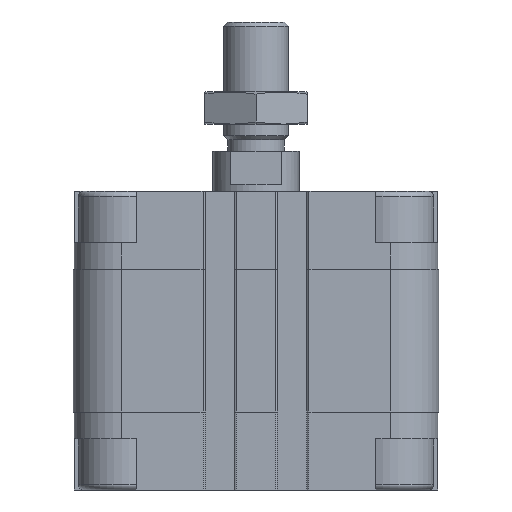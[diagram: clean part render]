
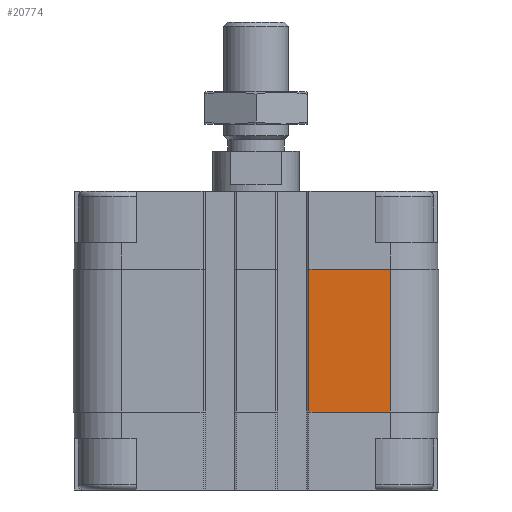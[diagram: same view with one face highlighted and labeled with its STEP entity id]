
A CAD part, front view. The second image highlights one B-rep face of the part: STEP entity #20774.
In plain terms, the highlighted planar face has unit normal (0, -1, 0).
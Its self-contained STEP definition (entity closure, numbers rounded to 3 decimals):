
#240 = AXIS2_PLACEMENT_3D ( 'NONE', #20685, #4736, #6808 ) ;
#315 = CARTESIAN_POINT ( 'NONE',  ( 25., -34., -41. ) ) ;
#423 = CARTESIAN_POINT ( 'NONE',  ( 9.85, -34., -41. ) ) ;
#528 = EDGE_LOOP ( 'NONE', ( #18208, #7025, #7078, #3927 ) ) ;
#1122 = EDGE_CURVE ( 'NONE', #9883, #9581, #16372, .T. ) ;
#2175 = LINE ( 'NONE', #315, #12063 ) ;
#2913 = CARTESIAN_POINT ( 'NONE',  ( 25., -34., -14.5 ) ) ;
#2961 = EDGE_CURVE ( 'NONE', #9581, #4103, #2175, .T. ) ;
#3212 = FACE_OUTER_BOUND ( 'NONE', #528, .T. ) ;
#3300 = DIRECTION ( 'NONE',  ( 1., 0., 0. ) ) ;
#3768 = VECTOR ( 'NONE', #3300, 1000. ) ;
#3927 = ORIENTED_EDGE ( 'NONE', *, *, #2961, .T. ) ;
#4103 = VERTEX_POINT ( 'NONE', #2913 ) ;
#4136 = DIRECTION ( 'NONE',  ( 0., 0., 1. ) ) ;
#4736 = DIRECTION ( 'NONE',  ( 0., -1., 0. ) ) ;
#5786 = DIRECTION ( 'NONE',  ( 1., 0., 0. ) ) ;
#6788 = LINE ( 'NONE', #21117, #3768 ) ;
#6808 = DIRECTION ( 'NONE',  ( -1., 0., 0. ) ) ;
#7025 = ORIENTED_EDGE ( 'NONE', *, *, #20742, .F. ) ;
#7078 = ORIENTED_EDGE ( 'NONE', *, *, #1122, .T. ) ;
#7873 = CARTESIAN_POINT ( 'NONE',  ( 9.85, -34., -14.5 ) ) ;
#8319 = CARTESIAN_POINT ( 'NONE',  ( 25., -34., -41. ) ) ;
#8331 = DIRECTION ( 'NONE',  ( 0., 0., 1. ) ) ;
#9581 = VERTEX_POINT ( 'NONE', #8319 ) ;
#9883 = VERTEX_POINT ( 'NONE', #12688 ) ;
#10306 = PLANE ( 'NONE',  #240 ) ;
#11936 = EDGE_CURVE ( 'NONE', #12939, #4103, #6788, .T. ) ;
#12063 = VECTOR ( 'NONE', #4136, 1000. ) ;
#12688 = CARTESIAN_POINT ( 'NONE',  ( 9.85, -34., -41. ) ) ;
#12939 = VERTEX_POINT ( 'NONE', #7873 ) ;
#13993 = VECTOR ( 'NONE', #8331, 1000. ) ;
#16372 = LINE ( 'NONE', #423, #18850 ) ;
#17065 = LINE ( 'NONE', #22772, #13993 ) ;
#18208 = ORIENTED_EDGE ( 'NONE', *, *, #11936, .F. ) ;
#18850 = VECTOR ( 'NONE', #5786, 1000. ) ;
#20685 = CARTESIAN_POINT ( 'NONE',  ( 9.85, -34., -41. ) ) ;
#20742 = EDGE_CURVE ( 'NONE', #9883, #12939, #17065, .T. ) ;
#20774 = ADVANCED_FACE ( 'NONE', ( #3212 ), #10306, .T. ) ;
#21117 = CARTESIAN_POINT ( 'NONE',  ( 9.85, -34., -14.5 ) ) ;
#22772 = CARTESIAN_POINT ( 'NONE',  ( 9.85, -34., -41. ) ) ;
